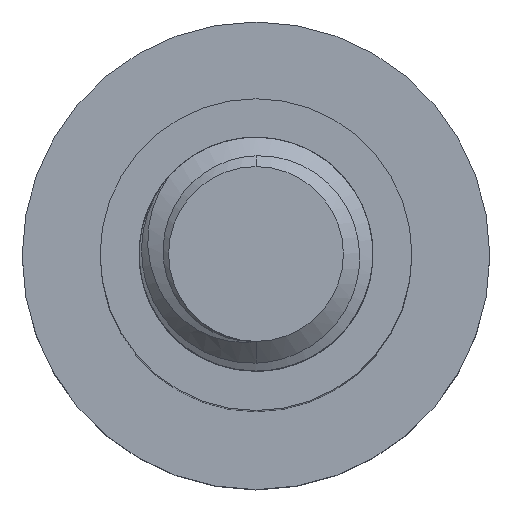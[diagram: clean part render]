
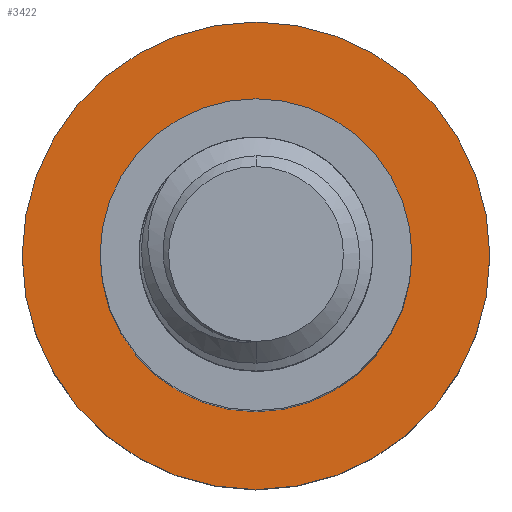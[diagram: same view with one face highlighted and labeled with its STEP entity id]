
A CAD part, top view. The second image highlights one B-rep face of the part: STEP entity #3422.
In plain terms, the highlighted planar face has unit normal (0, 0, 1).
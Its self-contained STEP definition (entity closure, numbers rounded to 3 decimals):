
#107 = AXIS2_PLACEMENT_3D ( 'NONE', #3463, #2179, #1069 ) ;
#199 = CIRCLE ( 'NONE', #446, 8. ) ;
#213 = CARTESIAN_POINT ( 'NONE',  ( 0., 0., -35. ) ) ;
#335 = DIRECTION ( 'NONE',  ( -1., 0., 0. ) ) ;
#360 = CIRCLE ( 'NONE', #107, 8. ) ;
#363 = ORIENTED_EDGE ( 'NONE', *, *, #1720, .T. ) ;
#446 = AXIS2_PLACEMENT_3D ( 'NONE', #1732, #4941, #2114 ) ;
#701 = ORIENTED_EDGE ( 'NONE', *, *, #2442, .F. ) ;
#1061 = VERTEX_POINT ( 'NONE', #4997 ) ;
#1069 = DIRECTION ( 'NONE',  ( -1., 0., 0. ) ) ;
#1366 = AXIS2_PLACEMENT_3D ( 'NONE', #213, #3008, #2632 ) ;
#1612 = EDGE_LOOP ( 'NONE', ( #3664, #363 ) ) ;
#1616 = EDGE_LOOP ( 'NONE', ( #701, #3214 ) ) ;
#1720 = EDGE_CURVE ( 'NONE', #4843, #1061, #360, .T. ) ;
#1732 = CARTESIAN_POINT ( 'NONE',  ( 0., 0., -35. ) ) ;
#2114 = DIRECTION ( 'NONE',  ( -1., 0., 0. ) ) ;
#2179 = DIRECTION ( 'NONE',  ( 0., 0., -1. ) ) ;
#2215 = DIRECTION ( 'NONE',  ( -1., 0., 0. ) ) ;
#2267 = CIRCLE ( 'NONE', #1366, 12. ) ;
#2305 = DIRECTION ( 'NONE',  ( 0., 0., -1. ) ) ;
#2442 = EDGE_CURVE ( 'NONE', #2443, #3109, #5047, .T. ) ;
#2443 = VERTEX_POINT ( 'NONE', #3898 ) ;
#2632 = DIRECTION ( 'NONE',  ( -1., 0., 0. ) ) ;
#2680 = CARTESIAN_POINT ( 'NONE',  ( 0., 0., -35. ) ) ;
#2695 = DIRECTION ( 'NONE',  ( 0., 0., -1. ) ) ;
#2827 = CARTESIAN_POINT ( 'NONE',  ( -12., 0., -35. ) ) ;
#2859 = AXIS2_PLACEMENT_3D ( 'NONE', #3833, #2695, #2215 ) ;
#3008 = DIRECTION ( 'NONE',  ( 0., 0., -1. ) ) ;
#3072 = FACE_BOUND ( 'NONE', #1612, .T. ) ;
#3109 = VERTEX_POINT ( 'NONE', #2827 ) ;
#3214 = ORIENTED_EDGE ( 'NONE', *, *, #3615, .F. ) ;
#3422 = ADVANCED_FACE ( 'NONE', ( #3072, #4627 ), #5120, .F. ) ;
#3463 = CARTESIAN_POINT ( 'NONE',  ( 0., 0., -35. ) ) ;
#3615 = EDGE_CURVE ( 'NONE', #3109, #2443, #2267, .T. ) ;
#3664 = ORIENTED_EDGE ( 'NONE', *, *, #3965, .T. ) ;
#3833 = CARTESIAN_POINT ( 'NONE',  ( 0., 0., -35. ) ) ;
#3898 = CARTESIAN_POINT ( 'NONE',  ( 12., 0., -35. ) ) ;
#3951 = AXIS2_PLACEMENT_3D ( 'NONE', #2680, #2305, #335 ) ;
#3965 = EDGE_CURVE ( 'NONE', #1061, #4843, #199, .T. ) ;
#4139 = CARTESIAN_POINT ( 'NONE',  ( 8., 0., -35. ) ) ;
#4627 = FACE_OUTER_BOUND ( 'NONE', #1616, .T. ) ;
#4843 = VERTEX_POINT ( 'NONE', #4139 ) ;
#4941 = DIRECTION ( 'NONE',  ( 0., 0., -1. ) ) ;
#4997 = CARTESIAN_POINT ( 'NONE',  ( -8., 0., -35. ) ) ;
#5047 = CIRCLE ( 'NONE', #3951, 12. ) ;
#5120 = PLANE ( 'NONE',  #2859 ) ;
